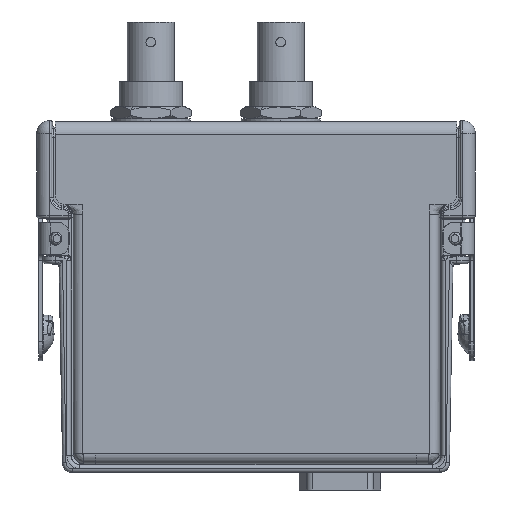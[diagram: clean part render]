
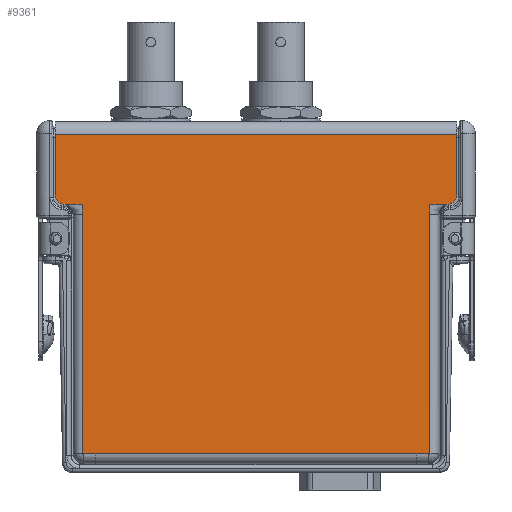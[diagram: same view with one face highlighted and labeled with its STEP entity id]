
A CAD part, left-side view. The second image highlights one B-rep face of the part: STEP entity #9361.
In plain terms, the highlighted planar face has unit normal (-1, 0, 0).
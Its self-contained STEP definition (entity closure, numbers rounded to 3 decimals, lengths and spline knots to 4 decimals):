
#3176=DIRECTION('',(0.,0.,1.));
#3177=VECTOR('',#3176,0.476);
#3178=CARTESIAN_POINT('',(-0.4475,1.5895,2.2));
#3179=LINE('',#3178,#3177);
#3253=DIRECTION('',(0.,0.,-1.));
#3254=VECTOR('',#3253,0.476);
#3255=CARTESIAN_POINT('',(-0.4475,-1.5895,2.676));
#3256=LINE('',#3255,#3254);
#3426=DIRECTION('',(0.,1.,0.));
#3427=VECTOR('',#3426,0.009);
#3428=CARTESIAN_POINT('',(-0.4475,1.5005,2.12));
#3429=LINE('',#3428,#3427);
#3438=DIRECTION('',(0.,1.,0.));
#3439=VECTOR('',#3438,0.01);
#3440=CARTESIAN_POINT('',(-0.4475,1.3665,0.146));
#3441=LINE('',#3440,#3439);
#3442=DIRECTION('',(0.,0.,1.));
#3443=VECTOR('',#3442,0.079);
#3444=CARTESIAN_POINT('',(-0.4475,1.3765,2.041));
#3445=LINE('',#3444,#3443);
#3446=DIRECTION('',(0.,1.,0.));
#3447=VECTOR('',#3446,0.1115);
#3448=CARTESIAN_POINT('',(-0.4475,1.3765,2.12));
#3449=LINE('',#3448,#3447);
#3450=DIRECTION('',(0.,1.,0.));
#3451=VECTOR('',#3450,0.0125);
#3452=CARTESIAN_POINT('',(-0.4475,1.488,2.12));
#3453=LINE('',#3452,#3451);
#3454=CARTESIAN_POINT('',(-0.4475,1.5095,2.2));
#3455=DIRECTION('',(-1.,0.,0.));
#3456=DIRECTION('',(0.,1.,0.));
#3457=AXIS2_PLACEMENT_3D('',#3454,#3455,#3456);
#3459=CARTESIAN_POINT('',(-0.4475,-1.5095,2.2));
#3460=DIRECTION('',(-1.,0.,0.));
#3461=DIRECTION('',(0.,0.,-1.));
#3462=AXIS2_PLACEMENT_3D('',#3459,#3460,#3461);
#3464=DIRECTION('',(0.,-1.,0.));
#3465=VECTOR('',#3464,0.0125);
#3466=CARTESIAN_POINT('',(-0.4475,-1.488,2.12));
#3467=LINE('',#3466,#3465);
#3468=DIRECTION('',(0.,-1.,0.));
#3469=VECTOR('',#3468,0.1115);
#3470=CARTESIAN_POINT('',(-0.4475,-1.3765,2.12));
#3471=LINE('',#3470,#3469);
#3472=DIRECTION('',(0.,0.,1.));
#3473=VECTOR('',#3472,0.079);
#3474=CARTESIAN_POINT('',(-0.4475,-1.3765,2.041));
#3475=LINE('',#3474,#3473);
#3476=DIRECTION('',(0.,1.,0.));
#3477=VECTOR('',#3476,0.01);
#3478=CARTESIAN_POINT('',(-0.4475,-1.3765,0.146));
#3479=LINE('',#3478,#3477);
#3487=DIRECTION('',(0.,-1.,0.));
#3488=VECTOR('',#3487,2.733);
#3489=CARTESIAN_POINT('',(-0.4475,1.3665,0.146));
#3490=LINE('',#3489,#3488);
#3558=DIRECTION('',(0.,0.,1.));
#3559=VECTOR('',#3558,1.895);
#3560=CARTESIAN_POINT('',(-0.4475,-1.3765,0.146));
#3561=LINE('',#3560,#3559);
#3647=DIRECTION('',(0.,-1.,0.));
#3648=VECTOR('',#3647,0.009);
#3649=CARTESIAN_POINT('',(-0.4475,-1.5005,2.12));
#3650=LINE('',#3649,#3648);
#3996=DIRECTION('',(0.,0.,-1.));
#3997=VECTOR('',#3996,1.895);
#3998=CARTESIAN_POINT('',(-0.4475,1.3765,2.041));
#3999=LINE('',#3998,#3997);
#5088=DIRECTION('',(0.,1.,0.));
#5089=VECTOR('',#5088,3.179);
#5090=CARTESIAN_POINT('',(-0.4475,-1.5895,2.676));
#5091=LINE('',#5090,#5089);
#7510=CARTESIAN_POINT('',(-0.4475,1.5895,2.2));
#7511=CARTESIAN_POINT('',(-0.4475,1.5095,2.12));
#7512=VERTEX_POINT('',#7510);
#7513=VERTEX_POINT('',#7511);
#7514=CARTESIAN_POINT('',(-0.4475,1.5895,2.676));
#7515=VERTEX_POINT('',#7514);
#7516=CARTESIAN_POINT('',(-0.4475,-1.5895,2.676));
#7517=VERTEX_POINT('',#7516);
#7518=CARTESIAN_POINT('',(-0.4475,-1.5895,2.2));
#7519=VERTEX_POINT('',#7518);
#7520=CARTESIAN_POINT('',(-0.4475,-1.5095,2.12));
#7521=VERTEX_POINT('',#7520);
#7726=CARTESIAN_POINT('',(-0.4475,-1.488,2.12));
#7727=CARTESIAN_POINT('',(-0.4475,-1.5005,2.12));
#7728=VERTEX_POINT('',#7726);
#7729=VERTEX_POINT('',#7727);
#7730=CARTESIAN_POINT('',(-0.4475,-1.3765,2.041));
#7731=CARTESIAN_POINT('',(-0.4475,-1.3765,2.12));
#7732=VERTEX_POINT('',#7730);
#7733=VERTEX_POINT('',#7731);
#7747=CARTESIAN_POINT('',(-0.4475,1.3765,2.041));
#7748=CARTESIAN_POINT('',(-0.4475,1.3765,2.12));
#7749=VERTEX_POINT('',#7747);
#7750=VERTEX_POINT('',#7748);
#7751=CARTESIAN_POINT('',(-0.4475,1.488,2.12));
#7752=CARTESIAN_POINT('',(-0.4475,1.5005,2.12));
#7753=VERTEX_POINT('',#7751);
#7754=VERTEX_POINT('',#7752);
#7776=CARTESIAN_POINT('',(-0.4475,-1.3765,0.146));
#7777=CARTESIAN_POINT('',(-0.4475,-1.3665,0.146));
#7778=VERTEX_POINT('',#7776);
#7779=VERTEX_POINT('',#7777);
#7802=CARTESIAN_POINT('',(-0.4475,1.3665,0.146));
#7803=CARTESIAN_POINT('',(-0.4475,1.3765,0.146));
#7804=VERTEX_POINT('',#7802);
#7805=VERTEX_POINT('',#7803);
#9322=CARTESIAN_POINT('',(-0.4475,0.,1.411));
#9323=DIRECTION('',(1.,0.,0.));
#9324=DIRECTION('',(0.,1.,0.));
#9325=AXIS2_PLACEMENT_3D('',#9322,#9323,#9324);
#9326=PLANE('',#9325);
#9328=ORIENTED_EDGE('',*,*,#9327,.T.);
#9330=ORIENTED_EDGE('',*,*,#9329,.F.);
#9332=ORIENTED_EDGE('',*,*,#9331,.T.);
#9334=ORIENTED_EDGE('',*,*,#9333,.T.);
#9336=ORIENTED_EDGE('',*,*,#9335,.T.);
#9337=ORIENTED_EDGE('',*,*,#9304,.T.);
#9338=ORIENTED_EDGE('',*,*,#9317,.F.);
#9339=ORIENTED_EDGE('',*,*,#8704,.T.);
#9341=ORIENTED_EDGE('',*,*,#9340,.F.);
#9342=ORIENTED_EDGE('',*,*,#8803,.T.);
#9344=ORIENTED_EDGE('',*,*,#9343,.F.);
#9346=ORIENTED_EDGE('',*,*,#9345,.F.);
#9348=ORIENTED_EDGE('',*,*,#9347,.F.);
#9350=ORIENTED_EDGE('',*,*,#9349,.F.);
#9352=ORIENTED_EDGE('',*,*,#9351,.F.);
#9354=ORIENTED_EDGE('',*,*,#9353,.F.);
#9356=ORIENTED_EDGE('',*,*,#9355,.T.);
#9358=ORIENTED_EDGE('',*,*,#9357,.F.);
#9359=EDGE_LOOP('',(#9328,#9330,#9332,#9334,#9336,#9337,#9338,#9339,#9341,#9342,
#9344,#9346,#9348,#9350,#9352,#9354,#9356,#9358));
#9360=FACE_OUTER_BOUND('',#9359,.F.);
#9361=ADVANCED_FACE('',(#9360),#9326,.F.);
#3458=CIRCLE('',#3457,0.08);
#3463=CIRCLE('',#3462,0.08);
#8704=EDGE_CURVE('',#7512,#7515,#3179,.T.);
#8803=EDGE_CURVE('',#7517,#7519,#3256,.T.);
#9304=EDGE_CURVE('',#7754,#7513,#3429,.T.);
#9317=EDGE_CURVE('',#7512,#7513,#3458,.T.);
#9327=EDGE_CURVE('',#7804,#7805,#3441,.T.);
#9329=EDGE_CURVE('',#7749,#7805,#3999,.T.);
#9331=EDGE_CURVE('',#7749,#7750,#3445,.T.);
#9333=EDGE_CURVE('',#7750,#7753,#3449,.T.);
#9335=EDGE_CURVE('',#7753,#7754,#3453,.T.);
#9340=EDGE_CURVE('',#7517,#7515,#5091,.T.);
#9343=EDGE_CURVE('',#7521,#7519,#3463,.T.);
#9345=EDGE_CURVE('',#7729,#7521,#3650,.T.);
#9347=EDGE_CURVE('',#7728,#7729,#3467,.T.);
#9349=EDGE_CURVE('',#7733,#7728,#3471,.T.);
#9351=EDGE_CURVE('',#7732,#7733,#3475,.T.);
#9353=EDGE_CURVE('',#7778,#7732,#3561,.T.);
#9355=EDGE_CURVE('',#7778,#7779,#3479,.T.);
#9357=EDGE_CURVE('',#7804,#7779,#3490,.T.);
